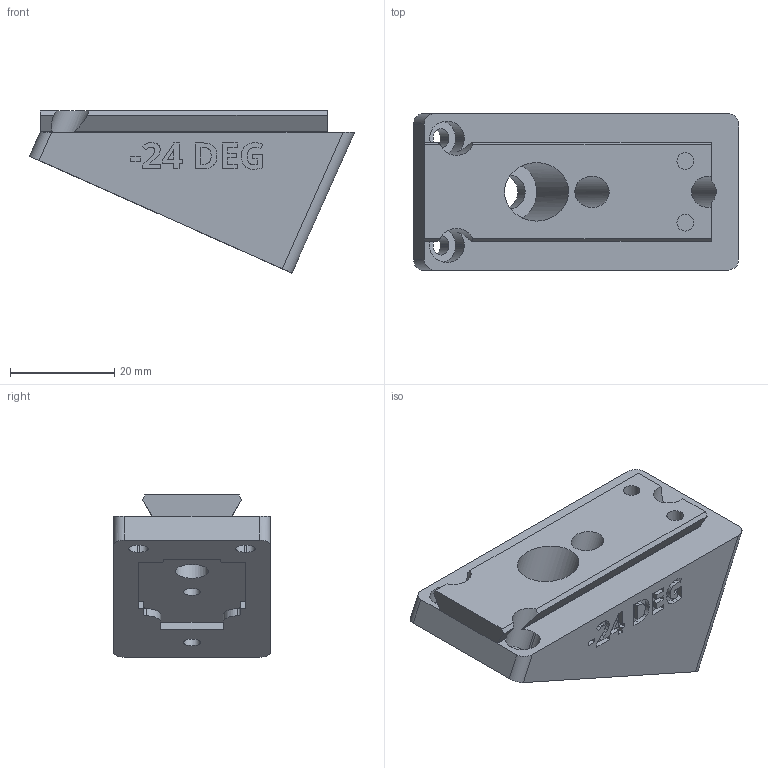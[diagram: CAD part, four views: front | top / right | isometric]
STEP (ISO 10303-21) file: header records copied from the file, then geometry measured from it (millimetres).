
FILE_DESCRIPTION(/* description */ ('STEP AP242 Edition 2','CAx-IF Rec.Pracs.---Representation and Presentation of Product Manufacturing Information (PMI)---4.0---2014-10-13','CAx-IF Rec.Pracs.---3D Tessellated Geometry---0.4---2014-09-14','2;1','CAx-IF Rec.Pracs.---User Defined Attributes---1.5---2016-08-15'),/* implementation_level */ '2;1');
FILE_NAME(/* name */ 'Camera Wedges - CAMERA MOUNTING WEDGE, NEG, -24 DEG',/* time_stamp */ '2026-07-08T20:35:52Z',/* author */ (''),/* organization */ (''),/* preprocessor_version */ 'ST-DEVELOPER v20',/* originating_system */ 'ONSHAPE BY PTC INC, 1.217',/* authorisation */ ' ');
FILE_SCHEMA (('AP242_MANAGED_MODEL_BASED_3D_ENGINEERING_MIM_LF { 1 0 10303 442 3 1 4 }'));
Length unit declared in the file: metre
Products named in the file (1): CAMERA MOUNTING WEDGE, NEG, -24 DEG
Bounding box: 62.24 x 30 x 31.05 mm (x, y, z)
Volume: 28319.5 mm3; surface area: 9025.5 mm2
Topology: 1 solids, 1 shells, 272 faces, 745 edges, 496 vertices
Faces by surface type: plane 170, cylinder 58, bspline 44
Full cylindrical faces by diameter (mm): 3.2 x4, 6 x2, 6.4 x1, 11.2 x1
Entity records: 8733 total; most frequent: CARTESIAN_POINT 1988, ORIENTED_EDGE 1472, DIRECTION 1237, EDGE_CURVE 736, LINE 517, VECTOR 517, VERTEX_POINT 495, AXIS2_PLACEMENT_3D 360
